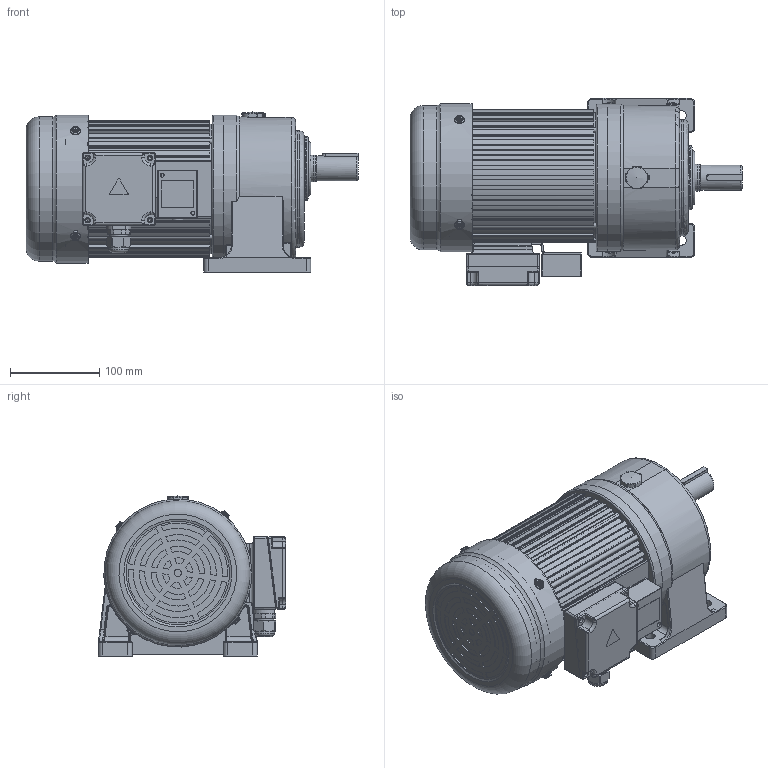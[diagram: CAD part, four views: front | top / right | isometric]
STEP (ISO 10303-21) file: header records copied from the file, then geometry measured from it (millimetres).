
FILE_DESCRIPTION(/* description */ (''),/* implementation_level */ '2;1');
FILE_NAME(/* name */ 'CH28-750-3～200外形多速比带刹车.stp',/* time_stamp */ '2025-05-02T10:26:59+08:00',/* author */ (''),/* organization */ (''),/* preprocessor_version */ 'ST-DEVELOPER v18.102',/* originating_system */ 'SIEMENS PLM Software NX 2027',/* authorisation */ '');
FILE_SCHEMA (('AP203_CONFIGURATION_CONTROLLED_3D_DESIGN_OF_MECHANICAL_PARTS_AND_ASSEMBLIES_MIM_LF { 1 0 10303 403 2 1 2}'));
Length unit declared in the file: millimetre
Products named in the file (1): CH28-750-3～200外形多速比带刹车_
objects
Bounding box: 372 x 209.75 x 179.3 mm (x, y, z)
Volume: 5147275.5 mm3; surface area: 580256.2 mm2
Topology: 22 solids, 22 shells, 4760 faces, 12484 edges, 7944 vertices
Faces by surface type: plane 2609, cylinder 1318, cone 430, torus 188, extrusion 96, bspline 74, sphere 25, revolution 20
Full cylindrical faces by diameter (mm): 1 x1, 1.8 x1, 3 x1, 3.3 x4, 3.5 x1, 4 x1, 4.2 x8, 4.336 x4, 4.5 x2, 4.51 x4, 4.826 x4, 5 x8, 5.795 x5, 6.4 x8, 7 x4, 8 x1, 10 x9, 11 x13, 12.5 x1, 13 x1, 15.76 x1, 16 x3, 16.6 x1, 16.678 x1, 17 x2, 19 x1, 19.5 x1, 20 x5, 21 x1, 22.5 x1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
Entity records: 155962 total; most frequent: CARTESIAN_POINT 41701, ORIENTED_EDGE 24322, DIRECTION 22705, EDGE_CURVE 12161, AXIS2_PLACEMENT_3D 7969, VERTEX_POINT 7871, VECTOR 6747, LINE 6651
